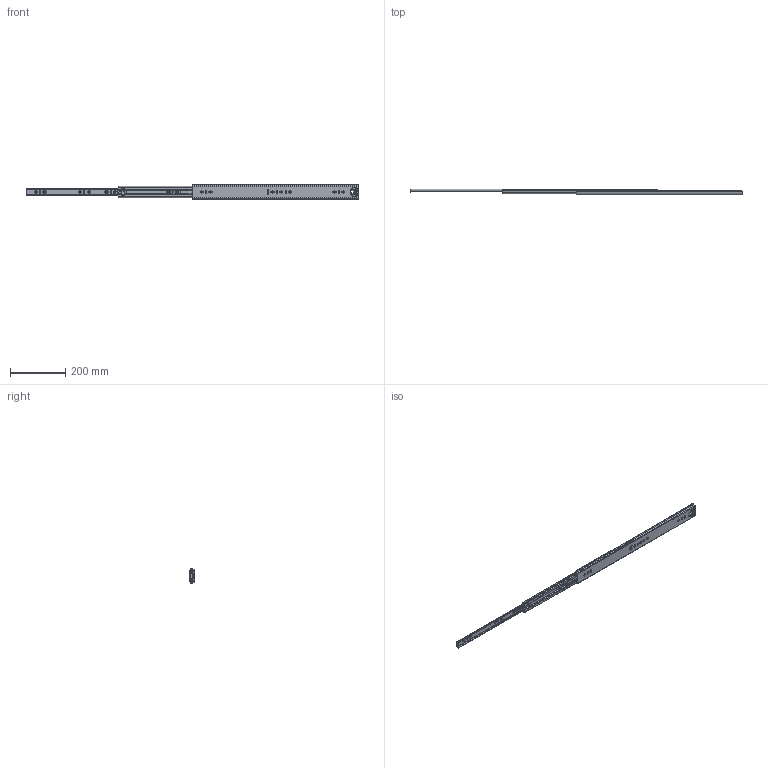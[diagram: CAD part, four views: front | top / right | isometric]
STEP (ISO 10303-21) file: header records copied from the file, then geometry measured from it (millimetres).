
FILE_DESCRIPTION((''),'2;1');
FILE_NAME('1053-02-24_ASM','2022-08-15T',('jishu015'),(''),'PRO/ENGINEER BY PARAMETRIC TECHNOLOGY CORPORATION, 2010280','PRO/ENGINEER BY PARAMETRIC TECHNOLOGY CORPORATION, 2010280','');
FILE_SCHEMA(('CONFIG_CONTROL_DESIGN'));
Length unit declared in the file: millimetre
Products named in the file (16): 1053-02-24WAIKE; 1053WEIJIAO____________; 53-WAIKEJIAO-24; 1053-02-24WAIKE_ASM; 1053ZHUTIAO-175____________; 53-5-6GANZHU____________; 1053ZHUTIAO-175MM_____________ASM; 1053-02-18ZHONGGUI____________; 53ZHIDIJIAO____________; 1053-02-18ZHONGGUI_____________ASM; 1053XIAOZHUJIA-14GE____________; 1053XIAOZHUJIA-14GE_____________ASM; 1053-02-18NEIGUI____________; 53BACHA___________; 1053-02-18NEIGUI_____________ASM; 1053-02-24_ASM
Assembly tree (66 placements, depth 3):
  1053-02-24_ASM
    1053-02-24WAIKE_ASM
      1053-02-24WAIKE
      1053WEIJIAO____________
      53-WAIKEJIAO-24
    1053ZHUTIAO-175MM_____________ASM  x2
      1053ZHUTIAO-175____________
      53-5-6GANZHU____________
    1053-02-18ZHONGGUI_____________ASM
      1053-02-18ZHONGGUI____________
      53ZHIDIJIAO____________
    1053XIAOZHUJIA-14GE_____________ASM
      1053XIAOZHUJIA-14GE____________
      53-5-6GANZHU____________  x40
    1053-02-18NEIGUI_____________ASM
      1053-02-18NEIGUI____________
      53BACHA___________
Bounding box: 1200 x 18.7 x 53 mm (x, y, z)
Volume: 228546.8 mm3; surface area: 261423.2 mm2
Topology: 72 solids, 72 shells, 1866 faces, 5374 edges, 3345 vertices
Faces by surface type: cylinder 816, plane 726, sphere 142, bspline 80, cone 68, torus 34
Entity records: 60169 total; most frequent: CARTESIAN_POINT 15076, ORIENTED_EDGE 9540, DIRECTION 9353, EDGE_CURVE 4770, AXIS2_PLACEMENT_3D 3289, VERTEX_POINT 3074, VECTOR 2775, LINE 2775
